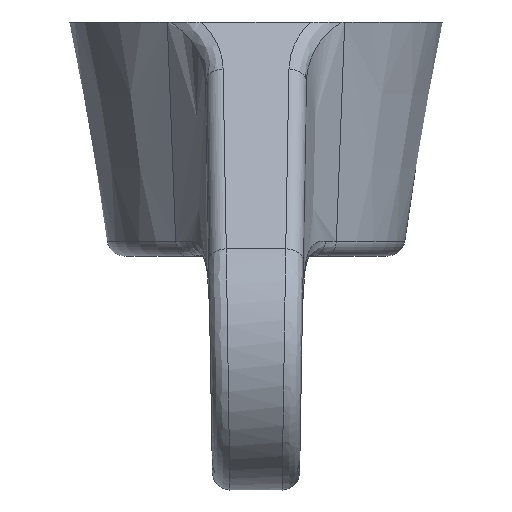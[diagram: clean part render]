
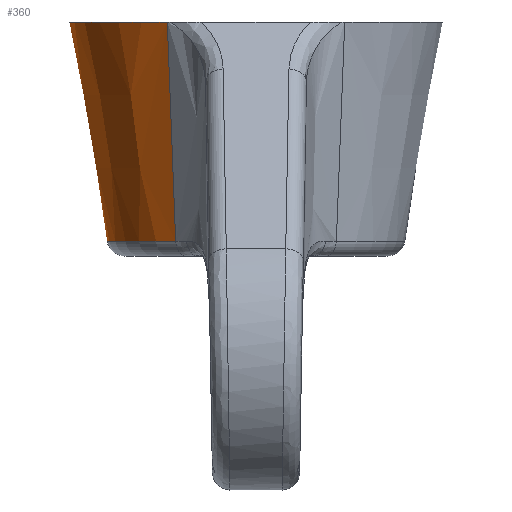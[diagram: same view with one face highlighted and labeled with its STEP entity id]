
A CAD part, left-side view. The second image highlights one B-rep face of the part: STEP entity #360.
In plain terms, the highlighted conical face has half-angle 9.926 degrees and reference radius 6.25 mm.
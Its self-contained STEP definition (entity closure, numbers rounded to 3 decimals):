
#11 = CARTESIAN_POINT ( 'NONE',  ( 0., 0., 0. ) ) ;
#86 = B_SPLINE_CURVE_WITH_KNOTS ( 'NONE', 3,
 ( #1916, #1938, #1927, #1593 ),
 .UNSPECIFIED., .F., .F.,
 ( 4, 4 ),
 ( 0.001, 0.01 ),
 .UNSPECIFIED. ) ;
#112 = DIRECTION ( 'NONE',  ( 0., 0., 1. ) ) ;
#127 = CARTESIAN_POINT ( 'NONE',  ( 7.045, 3.791, 0. ) ) ;
#184 = DIRECTION ( 'NONE',  ( 1., 0., 0. ) ) ;
#277 = CARTESIAN_POINT ( 'NONE',  ( 0., 0., -10. ) ) ;
#309 = CARTESIAN_POINT ( 'NONE',  ( 5.353, 3.433, -9.379 ) ) ;
#360 = ADVANCED_FACE ( 'NONE', ( #469 ), #1389, .T. ) ;
#413 = EDGE_LOOP ( 'NONE', ( #2141, #2004, #1451, #1887 ) ) ;
#469 = FACE_OUTER_BOUND ( 'NONE', #413, .T. ) ;
#659 = CARTESIAN_POINT ( 'NONE',  ( 6.482, 3.681, -3.127 ) ) ;
#672 = CARTESIAN_POINT ( 'NONE',  ( 7.045, 3.791, 0. ) ) ;
#690 = VERTEX_POINT ( 'NONE', #988 ) ;
#834 = CARTESIAN_POINT ( 'NONE',  ( -5.353, 3.433, -9.379 ) ) ;
#988 = CARTESIAN_POINT ( 'NONE',  ( -7.045, 3.791, 0. ) ) ;
#1119 = DIRECTION ( 'NONE',  ( -1., 0., 0. ) ) ;
#1127 = EDGE_CURVE ( 'NONE', #1133, #1968, #1345, .T. ) ;
#1133 = VERTEX_POINT ( 'NONE', #1627 ) ;
#1156 = EDGE_CURVE ( 'NONE', #690, #1422, #1207, .T. ) ;
#1207 = CIRCLE ( 'NONE', #1758, 8. ) ;
#1237 = EDGE_CURVE ( 'NONE', #1968, #690, #86, .T. ) ;
#1283 = EDGE_CURVE ( 'NONE', #1422, #1133, #1361, .T. ) ;
#1308 = AXIS2_PLACEMENT_3D ( 'NONE', #277, #112, #1914 ) ;
#1345 = CIRCLE ( 'NONE', #1944, 6.359 ) ;
#1361 = B_SPLINE_CURVE_WITH_KNOTS ( 'NONE', 3,
 ( #127, #659, #1384, #309 ),
 .UNSPECIFIED., .F., .F.,
 ( 4, 4 ),
 ( 0., 0.01 ),
 .UNSPECIFIED. ) ;
#1384 = CARTESIAN_POINT ( 'NONE',  ( 5.918, 3.563, -6.254 ) ) ;
#1389 = CONICAL_SURFACE ( 'NONE', #1308, 6.25, 0.173 ) ;
#1422 = VERTEX_POINT ( 'NONE', #672 ) ;
#1451 = ORIENTED_EDGE ( 'NONE', *, *, #1237, .T. ) ;
#1458 = DIRECTION ( 'NONE',  ( 0., 0., -1. ) ) ;
#1593 = CARTESIAN_POINT ( 'NONE',  ( -7.045, 3.791, 0. ) ) ;
#1627 = CARTESIAN_POINT ( 'NONE',  ( 5.353, 3.433, -9.379 ) ) ;
#1641 = CARTESIAN_POINT ( 'NONE',  ( 0., 0., -9.379 ) ) ;
#1758 = AXIS2_PLACEMENT_3D ( 'NONE', #11, #1458, #1119 ) ;
#1887 = ORIENTED_EDGE ( 'NONE', *, *, #1156, .T. ) ;
#1914 = DIRECTION ( 'NONE',  ( 1., 0., 0. ) ) ;
#1916 = CARTESIAN_POINT ( 'NONE',  ( -5.353, 3.433, -9.379 ) ) ;
#1927 = CARTESIAN_POINT ( 'NONE',  ( -6.482, 3.681, -3.127 ) ) ;
#1938 = CARTESIAN_POINT ( 'NONE',  ( -5.918, 3.563, -6.254 ) ) ;
#1944 = AXIS2_PLACEMENT_3D ( 'NONE', #1641, #1988, #184 ) ;
#1968 = VERTEX_POINT ( 'NONE', #834 ) ;
#1988 = DIRECTION ( 'NONE',  ( 0., 0., 1. ) ) ;
#2004 = ORIENTED_EDGE ( 'NONE', *, *, #1127, .T. ) ;
#2141 = ORIENTED_EDGE ( 'NONE', *, *, #1283, .T. ) ;
